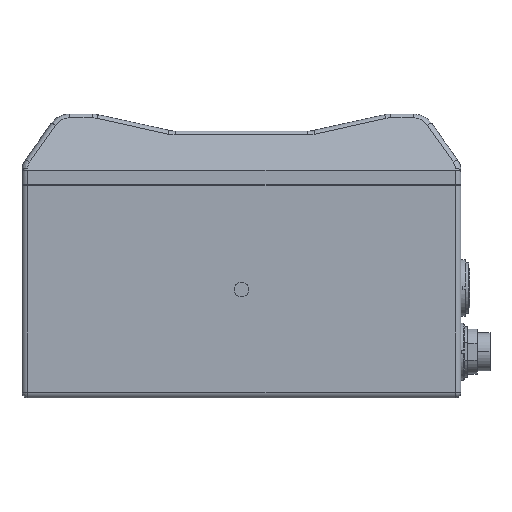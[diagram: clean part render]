
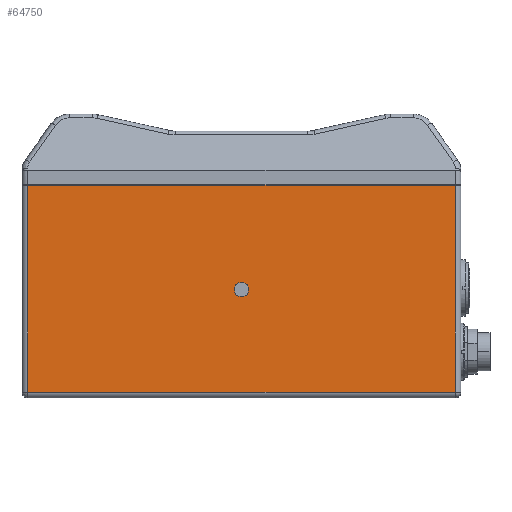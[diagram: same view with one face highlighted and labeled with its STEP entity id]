
A CAD part, front view. The second image highlights one B-rep face of the part: STEP entity #64750.
In plain terms, the highlighted planar face has unit normal (0, -1, 0).
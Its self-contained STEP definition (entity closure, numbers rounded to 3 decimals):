
#5117 = EDGE_CURVE ( 'NONE', #62435, #8318, #25882, .T. ) ;
#5697 = CARTESIAN_POINT ( 'NONE',  ( 0., -24.5, -55.95 ) ) ;
#7453 = CARTESIAN_POINT ( 'NONE',  ( 77.5, -24.5, -19.2 ) ) ;
#7613 = VERTEX_POINT ( 'NONE', #66868 ) ;
#7983 = ORIENTED_EDGE ( 'NONE', *, *, #5117, .T. ) ;
#8318 = VERTEX_POINT ( 'NONE', #50068 ) ;
#11118 = DIRECTION ( 'NONE',  ( 0., 0., 1. ) ) ;
#11954 = VERTEX_POINT ( 'NONE', #59672 ) ;
#12607 = CIRCLE ( 'NONE', #48178, 2.553 ) ;
#12728 = DIRECTION ( 'NONE',  ( 0., -1., 0. ) ) ;
#15441 = VECTOR ( 'NONE', #23433, 1000. ) ;
#16912 = AXIS2_PLACEMENT_3D ( 'NONE', #25676, #62982, #31033 ) ;
#18051 = CARTESIAN_POINT ( 'NONE',  ( 75.5, -24.5, -19.2 ) ) ;
#19396 = VERTEX_POINT ( 'NONE', #28088 ) ;
#19483 = VECTOR ( 'NONE', #60968, 1000. ) ;
#20596 = CARTESIAN_POINT ( 'NONE',  ( -75.5, -24.5, -92.2 ) ) ;
#21187 = LINE ( 'NONE', #7453, #19483 ) ;
#22783 = CIRCLE ( 'NONE', #16912, 2.553 ) ;
#23433 = DIRECTION ( 'NONE',  ( 0., 0., 1. ) ) ;
#25676 = CARTESIAN_POINT ( 'NONE',  ( 0., -24.5, -55.95 ) ) ;
#25882 = LINE ( 'NONE', #69342, #38422 ) ;
#26629 = DIRECTION ( 'NONE',  ( 1., 0., 0. ) ) ;
#27597 = FACE_BOUND ( 'NONE', #64810, .T. ) ;
#27711 = CARTESIAN_POINT ( 'NONE',  ( -75.5, -24.5, -94.2 ) ) ;
#28088 = CARTESIAN_POINT ( 'NONE',  ( 0., -24.5, -58.503 ) ) ;
#28180 = LINE ( 'NONE', #27711, #54907 ) ;
#29034 = EDGE_CURVE ( 'NONE', #8318, #57166, #29635, .T. ) ;
#29635 = LINE ( 'NONE', #18051, #15441 ) ;
#31033 = DIRECTION ( 'NONE',  ( 0., 0., 1. ) ) ;
#33047 = DIRECTION ( 'NONE',  ( 0., 0., -1. ) ) ;
#34036 = EDGE_LOOP ( 'NONE', ( #36982, #58643, #7983, #57921 ) ) ;
#36751 = FACE_OUTER_BOUND ( 'NONE', #34036, .T. ) ;
#36982 = ORIENTED_EDGE ( 'NONE', *, *, #57516, .T. ) ;
#38422 = VECTOR ( 'NONE', #26629, 1000. ) ;
#39981 = EDGE_CURVE ( 'NONE', #7613, #62435, #28180, .T. ) ;
#43150 = DIRECTION ( 'NONE',  ( 0., -1., 0. ) ) ;
#44778 = CARTESIAN_POINT ( 'NONE',  ( 77.5, -24.5, -19.2 ) ) ;
#46632 = EDGE_CURVE ( 'NONE', #19396, #11954, #22783, .T. ) ;
#48178 = AXIS2_PLACEMENT_3D ( 'NONE', #5697, #43150, #11118 ) ;
#50068 = CARTESIAN_POINT ( 'NONE',  ( 75.5, -24.5, -92.2 ) ) ;
#50121 = DIRECTION ( 'NONE',  ( 0., 0., 1. ) ) ;
#53668 = ORIENTED_EDGE ( 'NONE', *, *, #46632, .F. ) ;
#54907 = VECTOR ( 'NONE', #33047, 1000. ) ;
#57166 = VERTEX_POINT ( 'NONE', #63732 ) ;
#57516 = EDGE_CURVE ( 'NONE', #57166, #7613, #21187, .T. ) ;
#57921 = ORIENTED_EDGE ( 'NONE', *, *, #29034, .T. ) ;
#58551 = AXIS2_PLACEMENT_3D ( 'NONE', #44778, #12728, #50121 ) ;
#58643 = ORIENTED_EDGE ( 'NONE', *, *, #39981, .T. ) ;
#59672 = CARTESIAN_POINT ( 'NONE',  ( 0., -24.5, -53.397 ) ) ;
#60583 = PLANE ( 'NONE',  #58551 ) ;
#60911 = EDGE_CURVE ( 'NONE', #11954, #19396, #12607, .T. ) ;
#60968 = DIRECTION ( 'NONE',  ( -1., 0., 0. ) ) ;
#62435 = VERTEX_POINT ( 'NONE', #20596 ) ;
#62982 = DIRECTION ( 'NONE',  ( 0., -1., 0. ) ) ;
#63732 = CARTESIAN_POINT ( 'NONE',  ( 75.5, -24.5, -19.2 ) ) ;
#64750 = ADVANCED_FACE ( 'NONE', ( #27597, #36751 ), #60583, .T. ) ;
#64810 = EDGE_LOOP ( 'NONE', ( #67876, #53668 ) ) ;
#66868 = CARTESIAN_POINT ( 'NONE',  ( -75.5, -24.5, -19.2 ) ) ;
#67876 = ORIENTED_EDGE ( 'NONE', *, *, #60911, .F. ) ;
#69342 = CARTESIAN_POINT ( 'NONE',  ( 77.5, -24.5, -92.2 ) ) ;
